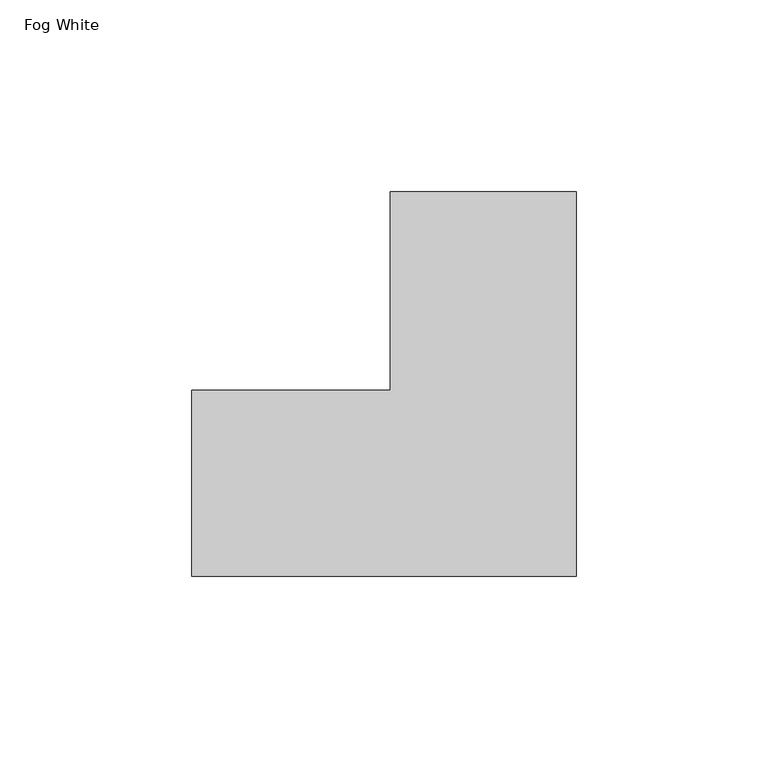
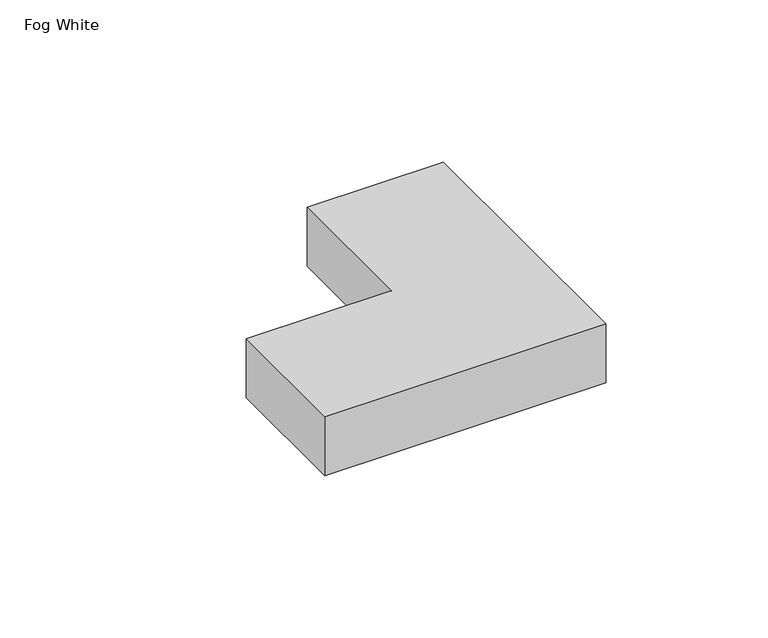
"""IFC4 building model written with IfcOpenShell, lengths in millimetres: proxy geometry, Elbow-2400_Series-Wiremold-Flat : Fog White."""

import ifcopenshell
import ifcopenshell.guid

model = None  # the IFC model being written
_history = None  # IfcOwnerHistory: only IFC2X3 demands one
_inside = {}  # id of a spatial element -> (the spatial element, [elements in it])
_under = {}  # id of a project, library or spatial element -> (it, [spatial elements below it])
_declared = {}  # id of a project -> (the project, [libraries it declares])
_typed = {}  # id of a type object -> (the type object, [elements of that type])
_made_of = {}  # id of a material, layer set ... -> (it, [elements and type objects made of it])


def new_model(schema):
    """Start an empty IFC model of exactly this schema.

    Asked for "IFC4X3", IfcOpenShell would pick the latest addendum, in which some entities
    have other attributes; the version numbers below select the first issue.
    IFC2X3 requires an IfcOwnerHistory on every rooted entity: one is made here for all.
    """
    global model, _history
    if schema == "IFC4X3":
        model = ifcopenshell.file(schema_version=(4, 3, 0, 0))
    else:
        model = ifcopenshell.file(schema=schema)
    _inside.clear()
    _under.clear()
    _declared.clear()
    _typed.clear()
    _made_of.clear()
    _history = None
    if model.schema == "IFC2X3":
        org = make("IfcOrganization", Name="unknown")
        user = make(
            "IfcPersonAndOrganization",
            ThePerson=make("IfcPerson", FamilyName="unknown"),
            TheOrganization=org,
        )
        app = make(
            "IfcApplication",
            ApplicationDeveloper=org,
            Version="unknown",
            ApplicationFullName="unknown",
            ApplicationIdentifier="unknown",
        )
        _history = make(
            "IfcOwnerHistory",
            OwningUser=user,
            OwningApplication=app,
            ChangeAction="ADDED",
            CreationDate=0,
        )
    return model


def make(cls, **values):
    """One entity of the class cls with the attributes given. An attribute that is None is left unset."""
    return model.create_entity(
        cls, **{name: value for name, value in values.items() if value is not None}
    )


def rooted(cls, **values):
    """An entity with a GlobalId (a new one), such as an element, a storey or a relation."""
    return make(cls, GlobalId=ifcopenshell.guid.new(), OwnerHistory=_history, **values)


def si_unit(unit_type, name, prefix=None):
    """IfcSIUnit, for example si_unit("LENGTHUNIT", "METRE", prefix="MILLI")."""
    return make("IfcSIUnit", UnitType=unit_type, Prefix=prefix, Name=name)


def assignment(units):
    """IfcUnitAssignment: the units of a project."""
    return None if units is None else make("IfcUnitAssignment", Units=units)


def point(xyz):
    """IfcCartesianPoint."""
    return None if xyz is None else make("IfcCartesianPoint", Coordinates=xyz)


def direction(xyz):
    """IfcDirection."""
    return None if xyz is None else make("IfcDirection", DirectionRatios=xyz)


def frame(location, z_axis=None, x_axis=None):
    """IfcAxis2Placement3D, a coordinate frame: its origin and axes. An axis left out is left unset."""
    return make(
        "IfcAxis2Placement3D",
        Location=point(location),
        Axis=direction(z_axis),
        RefDirection=direction(x_axis),
    )


def origin():
    """The frame at (0, 0, 0) with its axes left unset."""
    return frame((0.0, 0.0, 0.0))


def origin_with_axes():
    """The frame at (0, 0, 0) with the z axis (0, 0, 1) and the x axis (1, 0, 0) written out."""
    return frame((0.0, 0.0, 0.0), z_axis=(0.0, 0.0, 1.0), x_axis=(1.0, 0.0, 0.0))


def place(relative_to, where):
    """IfcLocalPlacement: puts the frame where relative to a parent placement (None: the world)."""
    return make(
        "IfcLocalPlacement", PlacementRelTo=relative_to, RelativePlacement=where
    )


def context(
    kind, dimensions, precision=None, world=None, true_north=None, identifier=None
):
    """IfcGeometricRepresentationContext, for example the 3D "Model" context."""
    return make(
        "IfcGeometricRepresentationContext",
        ContextIdentifier=identifier,
        ContextType=kind,
        CoordinateSpaceDimension=dimensions,
        Precision=precision,
        WorldCoordinateSystem=world,
        TrueNorth=true_north,
    )


def project(units=None, contexts=None):
    """IfcProject with its units and contexts."""
    return rooted(
        "IfcProject",
        Name="project",
        RepresentationContexts=contexts,
        UnitsInContext=assignment(units),
    )


def spatial(cls, under=None, at=None, **own):
    """A site, building, storey or space (cls), placed at a placement, below another one or the project."""
    s = rooted(cls, ObjectPlacement=at, **own)
    if under is not None:
        _under.setdefault(under.id(), (under, []))[1].append(s)
    return s


def polyline(points):
    """IfcPolyline through the points."""
    return make("IfcPolyline", Points=[point(p) for p in points])


def outline(outer, holes=None, kind="AREA"):
    """IfcArbitraryClosedProfileDef: a profile drawn as a closed curve; with holes, ...WithVoids."""
    if holes is None:
        return make("IfcArbitraryClosedProfileDef", ProfileType=kind, OuterCurve=outer)
    return make(
        "IfcArbitraryProfileDefWithVoids",
        ProfileType=kind,
        OuterCurve=outer,
        InnerCurves=holes,
    )


def extrude(swept, where, along, depth):
    """IfcExtrudedAreaSolid: the profile swept, set in the frame where, extruded along a direction by depth."""
    return make(
        "IfcExtrudedAreaSolid",
        SweptArea=swept,
        Position=where,
        ExtrudedDirection=direction(along),
        Depth=depth,
    )


def shape(context_of_items, identifier, shape_type, items):
    """IfcShapeRepresentation: the items that make up one representation, for example the "Body"."""
    return make(
        "IfcShapeRepresentation",
        ContextOfItems=context_of_items,
        RepresentationIdentifier=identifier,
        RepresentationType=shape_type,
        Items=items,
    )


def source(mapping_origin, context_of_items, identifier, shape_type, items):
    """IfcRepresentationMap: a shape defined once, which mapped items show again and again."""
    return make(
        "IfcRepresentationMap",
        MappingOrigin=mapping_origin,
        MappedRepresentation=shape(context_of_items, identifier, shape_type, items),
    )


def transform(
    local_origin,
    x_axis=None,
    y_axis=None,
    z_axis=None,
    scale=None,
    scale2=None,
    scale3=None,
    uniform=True,
):
    """IfcCartesianTransformationOperator3D, or its non-uniform kind. x_axis, y_axis, z_axis: its Axis1, 2, 3."""
    if uniform:
        return make(
            "IfcCartesianTransformationOperator3D",
            Axis1=direction(x_axis),
            Axis2=direction(y_axis),
            LocalOrigin=point(local_origin),
            Scale=scale,
            Axis3=direction(z_axis),
        )
    return make(
        "IfcCartesianTransformationOperator3DnonUniform",
        Axis1=direction(x_axis),
        Axis2=direction(y_axis),
        LocalOrigin=point(local_origin),
        Scale=scale,
        Axis3=direction(z_axis),
        Scale2=scale2,
        Scale3=scale3,
    )


def mapped(mapping_source, mapping_target):
    """IfcMappedItem: shows the shape of a source again, moved by a transform."""
    return make(
        "IfcMappedItem", MappingSource=mapping_source, MappingTarget=mapping_target
    )


def made_of(thing, what):
    """Note that an element or type object is made of a material, layer set ...; save() writes the relation."""
    if what is not None:
        _made_of.setdefault(what.id(), (what, []))[1].append(thing)
    return thing


def element(
    cls,
    number,
    at=None,
    inside=None,
    cuts=None,
    type_object=None,
    material=None,
    context=None,
    identifier="Body",
    shape_type=None,
    held_by="IfcProductDefinitionShape",
    body=None,
    shapes=None,
    **own,
):
    """One element of the class cls, such as IfcWall. Its Tag is "e" and its number.

    at: its placement. inside: the storey or other place that contains it. cuts: it is an
    opening in that element (IfcRelVoidsElement). A single representation is given by context,
    identifier, shape_type and body (its items); several are given by shapes. held_by: the class
    of the entity that holds the representations. save() writes the other relations.
    """
    e = rooted(cls, Tag="e%d" % number, ObjectPlacement=at, **own)
    if body is not None:
        shapes = [shape(context, identifier, shape_type, body)]
    if shapes is not None:
        e.Representation = make(held_by, Representations=shapes)
    if inside is not None:
        _inside.setdefault(inside.id(), (inside, []))[1].append(e)
    if cuts is not None:
        rooted(
            "IfcRelVoidsElement", RelatingBuildingElement=cuts, RelatedOpeningElement=e
        )
    if type_object is not None:
        _typed.setdefault(type_object.id(), (type_object, []))[1].append(e)
    return made_of(e, material)


def aggregate(whole, parts):
    """IfcRelAggregates: a whole, such as a stair, and the parts it consists of."""
    return rooted("IfcRelAggregates", RelatingObject=whole, RelatedObjects=parts)


def save(model, path):
    """Write the relations noted so far, then the file.

    IfcRelAggregates (storeys below a building ...), IfcRelContainedInSpatialStructure (elements
    in a storey), IfcRelDefinesByType, IfcRelAssociatesMaterial and IfcRelDeclares: one each for
    every whole, place, type object, material and project.
    """
    for whole, parts in _under.values():
        aggregate(whole, parts)
    for where, things in _inside.values():
        rooted(
            "IfcRelContainedInSpatialStructure",
            RelatedElements=things,
            RelatingStructure=where,
        )
    for kind, things in _typed.values():
        rooted("IfcRelDefinesByType", RelatedObjects=things, RelatingType=kind)
    for what, things in _made_of.values():
        rooted("IfcRelAssociatesMaterial", RelatedObjects=things, RelatingMaterial=what)
    for by, libraries in _declared.values():
        rooted("IfcRelDeclares", RelatingContext=by, RelatedDefinitions=libraries)
    model.write(path)


def fog_white_bf7c3a35(model_context):
    return source(origin(), model_context, "Body", "SweptSolid", [
        extrude(outline(polyline([(-24.209375, 75.815825), (24.209375, 75.815825), (24.209375, -24.209375), (-75.815825, -24.209375), (-75.815825, 24.209375), (-24.209375, 24.209375), (-24.209375, 75.815825)])), origin_with_axes(), (0.0, 0.0, 1.0), 22.225),
    ])


if __name__ == "__main__":
    model = new_model("IFC4")
    model_context = context("Model", 3, world=origin())
    ifc_project = project(units=[si_unit("LENGTHUNIT", "METRE", prefix="MILLI")], contexts=[model_context])
    site = spatial("IfcSite", under=ifc_project)
    building = spatial("IfcBuilding", under=site)
    placement = place(None, origin())
    fog_white_shape = fog_white_bf7c3a35(model_context)
    element("IfcBuildingElementProxy", 1, Name="Elbow-2400_Series-Wiremold-Flat : Fog White", ObjectType="Elbow-2400_Series-Wiremold-Flat : Fog White", at=placement, inside=building, context=model_context, shape_type="MappedRepresentation", body=[
        mapped(fog_white_shape, transform((0.0, 0.0, 0.0), x_axis=(1.0, 0.0, 0.0), y_axis=(0.0, 1.0, 0.0), z_axis=(0.0, 0.0, 1.0))),
    ])
    save(model, "model.ifc")
